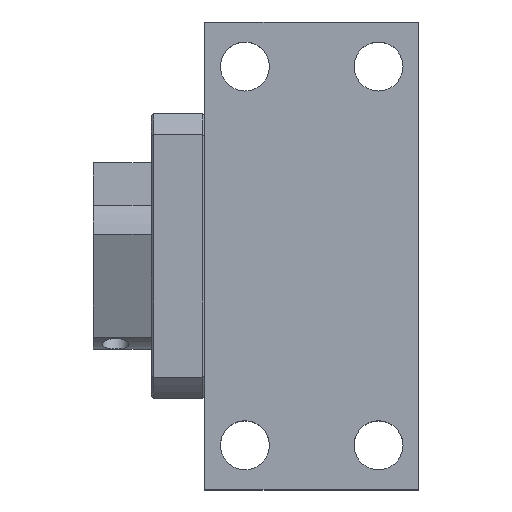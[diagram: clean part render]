
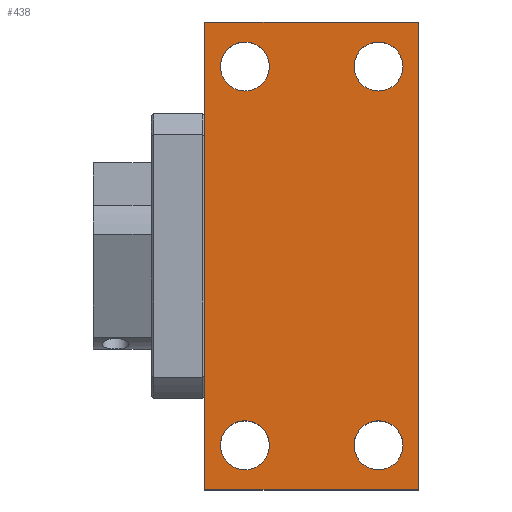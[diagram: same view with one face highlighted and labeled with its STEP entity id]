
A CAD part, top view. The second image highlights one B-rep face of the part: STEP entity #438.
In plain terms, the highlighted planar face has unit normal (0, 0, 1).
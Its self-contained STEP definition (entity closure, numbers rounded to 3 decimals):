
#182=LINE('',#2587,#246);
#202=LINE('',#2636,#266);
#204=LINE('',#2640,#268);
#205=LINE('',#2641,#269);
#246=VECTOR('',#1909,1.);
#266=VECTOR('',#1949,1.);
#268=VECTOR('',#1953,1.);
#269=VECTOR('',#1954,1.);
#379=PLANE('',#1667);
#438=ADVANCED_FACE('',(#589,#590,#591,#592,#593),#379,.T.);
#589=FACE_BOUND('',#743,.T.);
#590=FACE_BOUND('',#744,.T.);
#591=FACE_BOUND('',#745,.T.);
#592=FACE_BOUND('',#746,.T.);
#593=FACE_BOUND('',#747,.T.);
#743=EDGE_LOOP('',(#984,#985,#986,#987));
#744=EDGE_LOOP('',(#988));
#745=EDGE_LOOP('',(#989));
#746=EDGE_LOOP('',(#990));
#747=EDGE_LOOP('',(#991));
#984=ORIENTED_EDGE('',*,*,#1412,.F.);
#985=ORIENTED_EDGE('',*,*,#1414,.T.);
#986=ORIENTED_EDGE('',*,*,#1388,.T.);
#987=ORIENTED_EDGE('',*,*,#1415,.F.);
#988=ORIENTED_EDGE('',*,*,#1416,.F.);
#989=ORIENTED_EDGE('',*,*,#1417,.F.);
#990=ORIENTED_EDGE('',*,*,#1418,.F.);
#991=ORIENTED_EDGE('',*,*,#1419,.F.);
#1248=VERTEX_POINT('',#2588);
#1249=VERTEX_POINT('',#2589);
#1266=VERTEX_POINT('',#2635);
#1267=VERTEX_POINT('',#2637);
#1268=VERTEX_POINT('',#2643);
#1269=VERTEX_POINT('',#2645);
#1270=VERTEX_POINT('',#2647);
#1271=VERTEX_POINT('',#2649);
#1388=EDGE_CURVE('LINE',#1248,#1249,#182,.T.);
#1412=EDGE_CURVE('LINE',#1266,#1267,#202,.T.);
#1414=EDGE_CURVE('LINE',#1266,#1248,#204,.T.);
#1415=EDGE_CURVE('LINE',#1267,#1249,#205,.T.);
#1416=EDGE_CURVE('GENERATED CIRCLE',#1268,#1268,#1544,.T.);
#1417=EDGE_CURVE('GENERATED CIRCLE',#1269,#1269,#1545,.T.);
#1418=EDGE_CURVE('GENERATED CIRCLE',#1270,#1270,#1546,.T.);
#1419=EDGE_CURVE('GENERATED CIRCLE',#1271,#1271,#1547,.T.);
#1544=CIRCLE('',#1663,5.5);
#1545=CIRCLE('',#1664,5.5);
#1546=CIRCLE('',#1665,5.5);
#1547=CIRCLE('',#1666,5.5);
#1663=AXIS2_PLACEMENT_3D('',#2642,#1955,#1956);
#1664=AXIS2_PLACEMENT_3D('',#2644,#1957,#1958);
#1665=AXIS2_PLACEMENT_3D('',#2646,#1959,#1960);
#1666=AXIS2_PLACEMENT_3D('',#2648,#1961,#1962);
#1667=AXIS2_PLACEMENT_3D('',#2650,#1963,#1964);
#1909=DIRECTION('',(-1.,0.,0.));
#1949=DIRECTION('',(-1.,0.,0.));
#1953=DIRECTION('',(0.,1.,0.));
#1954=DIRECTION('',(0.,1.,0.));
#1955=DIRECTION('',(0.,0.,1.));
#1956=DIRECTION('',(1.,0.,0.));
#1957=DIRECTION('',(0.,0.,1.));
#1958=DIRECTION('',(1.,0.,0.));
#1959=DIRECTION('',(0.,0.,1.));
#1960=DIRECTION('',(1.,0.,0.));
#1961=DIRECTION('',(0.,0.,1.));
#1962=DIRECTION('',(1.,0.,0.));
#1963=DIRECTION('',(0.,0.,1.));
#1964=DIRECTION('',(0.,-1.,0.));
#2587=CARTESIAN_POINT('',(48.,52.5,0.));
#2588=CARTESIAN_POINT('',(72.,52.5,0.));
#2589=CARTESIAN_POINT('',(24.,52.5,0.));
#2635=CARTESIAN_POINT('',(72.,-52.5,0.));
#2636=CARTESIAN_POINT('',(48.,-52.5,0.));
#2637=CARTESIAN_POINT('',(24.,-52.5,0.));
#2640=CARTESIAN_POINT('',(72.,0.,0.));
#2641=CARTESIAN_POINT('',(24.,0.,0.));
#2642=CARTESIAN_POINT('',(63.,-42.5,0.));
#2643=CARTESIAN_POINT('',(68.5,-42.5,0.));
#2644=CARTESIAN_POINT('',(63.,42.5,0.));
#2645=CARTESIAN_POINT('',(68.5,42.5,0.));
#2646=CARTESIAN_POINT('',(33.,-42.5,0.));
#2647=CARTESIAN_POINT('',(38.5,-42.5,0.));
#2648=CARTESIAN_POINT('',(33.,42.5,0.));
#2649=CARTESIAN_POINT('',(38.5,42.5,0.));
#2650=CARTESIAN_POINT('',(48.,-52.5,0.));
